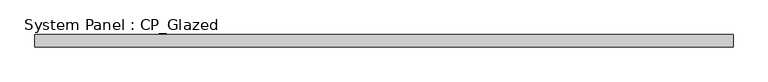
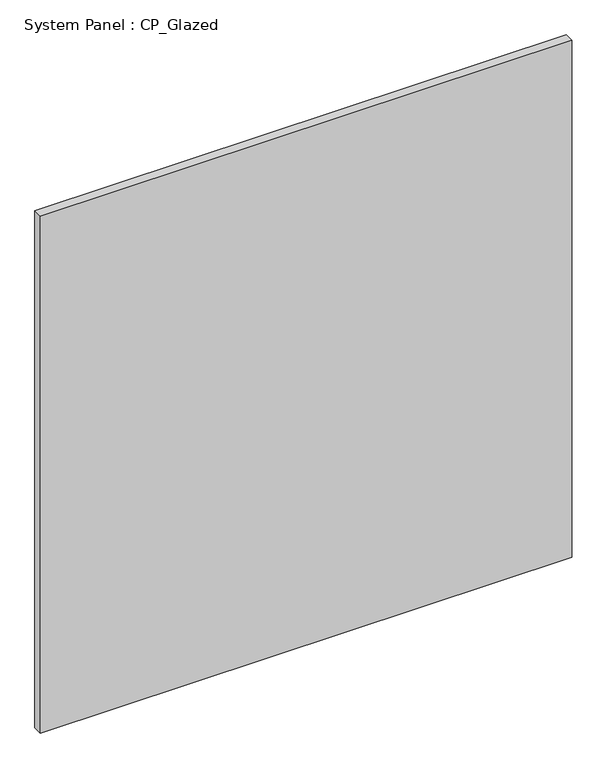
"""IFC4 building model written with IfcOpenShell, lengths in millimetres: plate geometry, System Panel : CP_Glazed."""

from ifc_helpers import new_model, si_unit, origin, origin_with_axes, place, context, project, spatial, polyline, outline, extrude, source, transform, mapped, element, save


def system_panel_cp_glazed_0b899ce3(model_context):
    return source(origin(), model_context, "Body", "SweptSolid", [
        extrude(outline(polyline([(719.5910714, 19.05), (-719.5910714, 19.05), (-719.5910714, 44.45), (719.5910714, 44.45), (719.5910714, 19.05)])), origin_with_axes(), (0.0, 0.0, 1.0), 1479.55),
    ])


if __name__ == "__main__":
    model = new_model("IFC4")
    model_context = context("Model", 3, world=origin())
    ifc_project = project(units=[si_unit("LENGTHUNIT", "METRE", prefix="MILLI")], contexts=[model_context])
    site = spatial("IfcSite", under=ifc_project)
    building = spatial("IfcBuilding", under=site)
    placement = place(None, origin())
    system_panel_cp_glazed_shape = system_panel_cp_glazed_0b899ce3(model_context)
    element("IfcPlate", 1, ObjectType="System Panel : CP_Glazed", at=placement, inside=building, context=model_context, shape_type="MappedRepresentation", body=[
        mapped(system_panel_cp_glazed_shape, transform((0.0, 0.0, 0.0), x_axis=(1.0, 0.0, 0.0), y_axis=(0.0, 1.0, 0.0), z_axis=(0.0, 0.0, 1.0))),
    ])
    save(model, "model.ifc")
